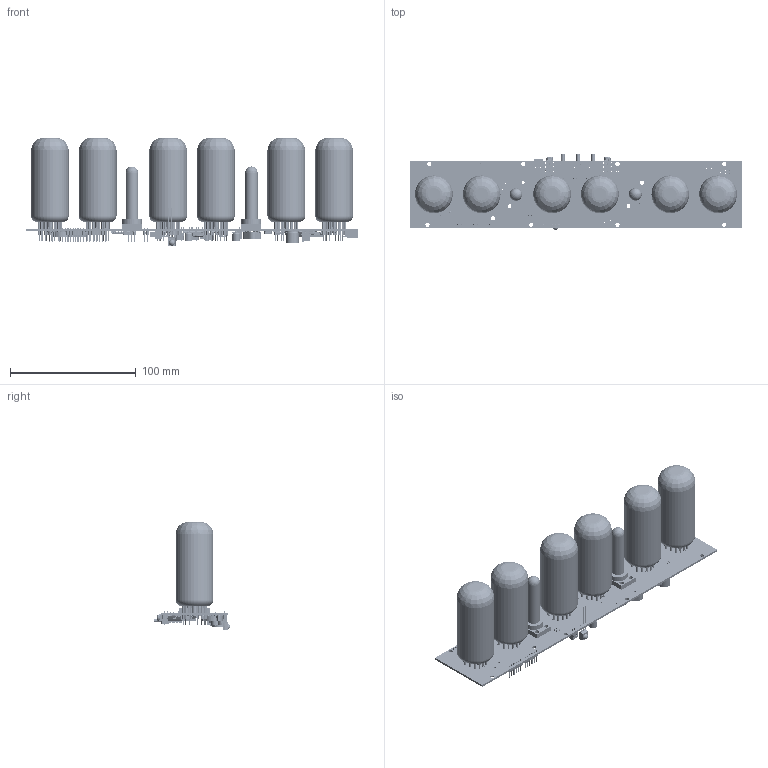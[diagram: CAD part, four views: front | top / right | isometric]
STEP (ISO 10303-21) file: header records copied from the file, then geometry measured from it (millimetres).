
FILE_DESCRIPTION(('Open CASCADE Model'),'2;1');
FILE_NAME('Open CASCADE Shape Model','2019-05-17T02:24:07',('Author'),( 'Open CASCADE'),'Open CASCADE STEP processor 6.8','Open CASCADE 6.8' ,'Unknown');
FILE_SCHEMA(('AUTOMOTIVE_DESIGN { 1 0 10303 214 1 1 1 1 }'));
Length unit declared in the file: millimetre
Products named in the file (1): PCB
Bounding box: 264 x 60.28 x 86.2 mm (x, y, z)
Volume: 32639.9 mm3; surface area: 106373.3 mm2
Topology: 154 solids, 6049 shells, 12758 faces, 47713 edges, 40849 vertices
Faces by surface type: plane 7503, cylinder 3807, bspline 1081, sphere 276, cone 57, torus 22, revolution 12
Full cylindrical faces by diameter (mm): 0.7 x1, 0.8 x12, 0.9 x75, 1.1 x9, 1.3 x18, 1.4 x1, 1.5 x4, 1.6 x84, 3.3 x13, 5.1 x6
Entity records: 598089 total; most frequent: CARTESIAN_POINT 159860, DIRECTION 77507, ORIENTED_EDGE 63827, EDGE_CURVE 47246, VERTEX_POINT 40849, LINE 33251, VECTOR 33251, AXIS2_PLACEMENT_3D 22122
